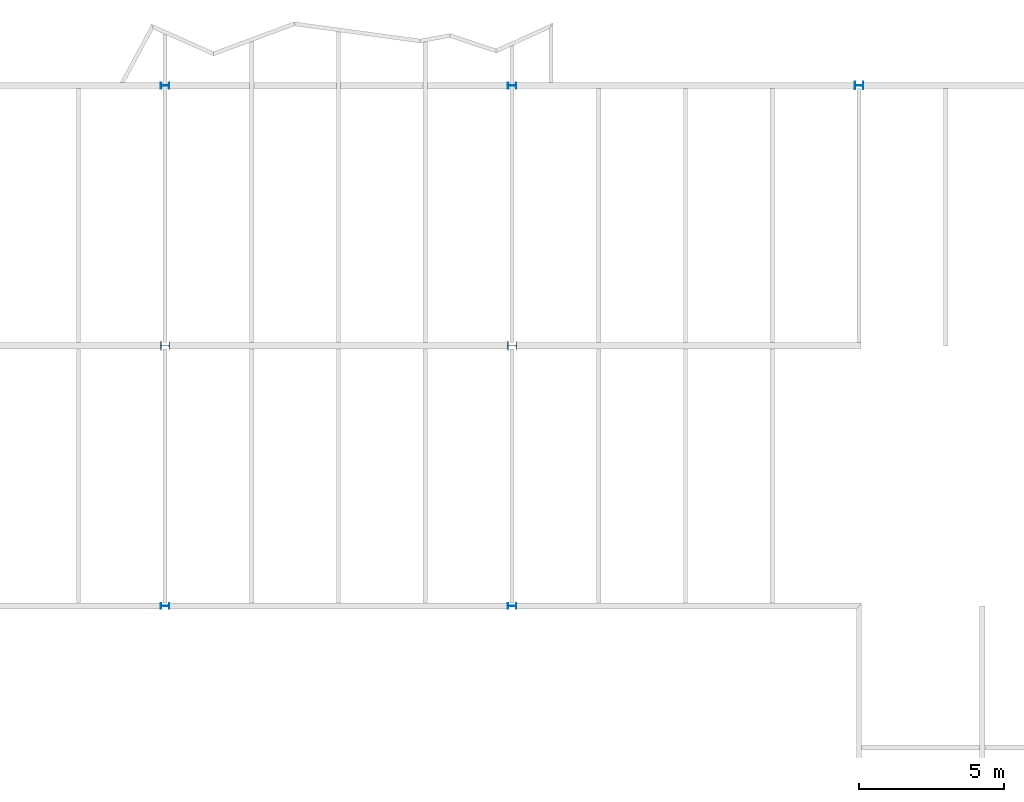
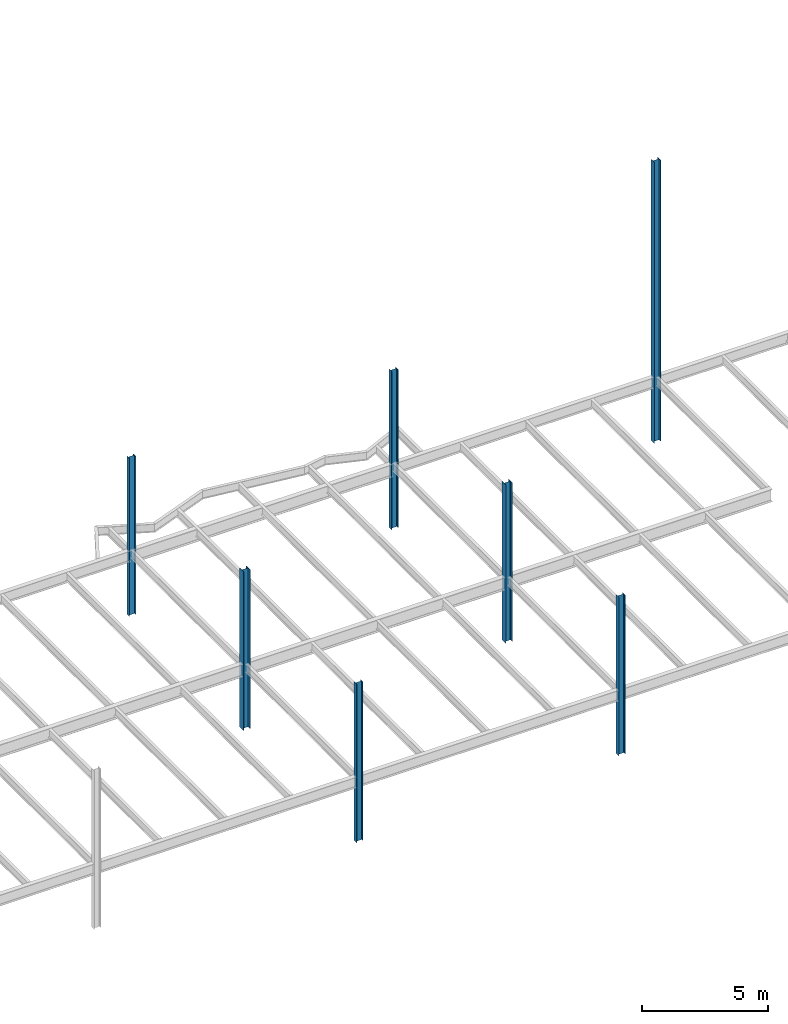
# One storey, part 2 of 23: 7 columns.
"""IFC2X3 building model written with IfcOpenShell, lengths in millimetres."""

from ifc_helpers import new_model, si_unit, origin, place, context, project, spatial, faceted_brep, material, element, save


model = new_model("IFC2X3")

# Units and contexts
context_of_model = context(None, 3, precision=1e-05, world=origin())
ifc_project = project(units=[si_unit("LENGTHUNIT", "METRE", prefix="MILLI")], contexts=[context_of_model])

# Building, storey
building = spatial("IfcBuilding", under=ifc_project, Name="Building", CompositionType="ELEMENT")
storey = spatial("IfcBuildingStorey", under=building, Name="FL5-FRM", CompositionType="ELEMENT")

# Columns
ifc_material_1 = material(Name="A992")
column_1_placement = place(None, origin())
element("IfcColumn", 1, at=column_1_placement, inside=storey, material=ifc_material_1, Name="Column283", context=context_of_model, shape_type="Brep", body=[
    faceted_brep([(-23847.0, 35898.0, 14719.2), (-23847.0, 36102.0, 14719.2), (-23847.0, 36102.0, 22373.0), (-23847.0, 35898.0, 22373.0), (-23861.6, 36102.0, 14719.2), (-23861.6, 36102.0, 22373.0), (-23861.6, 36016.9, 14719.2), (-23861.6, 36016.9, 22373.0), (-23862.0, 36013.7, 14719.2), (-23862.0, 36013.7, 22373.0), (-23863.3, 36010.6, 14719.2), (-23863.3, 36010.6, 22373.0), (-23865.3, 36008.0, 14719.2), (-23865.3, 36008.0, 22373.0), (-23868.0, 36006.0, 14719.2), (-23868.0, 36006.0, 22373.0), (-23871.0, 36004.7, 14719.2), (-23871.0, 36004.7, 22373.0), (-23874.3, 36004.3, 14719.2), (-23874.3, 36004.3, 22373.0), (-24125.7, 36004.3, 14719.2), (-24125.7, 36004.3, 22373.0), (-24129.0, 36004.7, 14719.2), (-24129.0, 36004.7, 22373.0), (-24132.0, 36006.0, 14719.2), (-24132.0, 36006.0, 22373.0), (-24134.7, 36008.0, 14719.2), (-24134.7, 36008.0, 22373.0), (-24136.7, 36010.6, 14719.2), (-24136.7, 36010.6, 22373.0), (-24138.0, 36013.7, 14719.2), (-24138.0, 36013.7, 22373.0), (-24138.4, 36016.9, 14719.2), (-24138.4, 36016.9, 22373.0), (-24138.4, 36102.0, 14719.2), (-24138.4, 36102.0, 22373.0), (-24153.0, 36102.0, 14719.2), (-24153.0, 36102.0, 22373.0), (-24153.0, 35898.0, 14719.2), (-24153.0, 35898.0, 22373.0), (-24138.4, 35898.0, 14719.2), (-24138.4, 35898.0, 22373.0), (-24138.4, 35983.1, 14719.2), (-24138.4, 35983.1, 22373.0), (-24138.0, 35986.3, 14719.2), (-24138.0, 35986.3, 22373.0), (-24136.7, 35989.4, 14719.2), (-24136.7, 35989.4, 22373.0), (-24134.7, 35992.0, 14719.2), (-24134.7, 35992.0, 22373.0), (-24132.0, 35994.0, 14719.2), (-24132.0, 35994.0, 22373.0), (-24129.0, 35995.3, 14719.2), (-24129.0, 35995.3, 22373.0), (-24125.7, 35995.8, 14719.2), (-24125.7, 35995.8, 22373.0), (-23874.3, 35995.8, 14719.2), (-23874.3, 35995.8, 22373.0), (-23871.0, 35995.3, 14719.2), (-23871.0, 35995.3, 22373.0), (-23868.0, 35994.0, 14719.2), (-23868.0, 35994.0, 22373.0), (-23865.3, 35992.0, 14719.2), (-23865.3, 35992.0, 22373.0), (-23863.3, 35989.4, 14719.2), (-23863.3, 35989.4, 22373.0), (-23862.0, 35986.3, 14719.2), (-23862.0, 35986.3, 22373.0), (-23861.6, 35983.1, 14719.2), (-23861.6, 35983.1, 22373.0), (-23861.6, 35898.0, 14719.2), (-23861.6, 35898.0, 22373.0)], [[[0, 1, 2, 3]], [[1, 4, 5, 2]], [[4, 6, 7, 5]], [[6, 8, 9, 7]], [[8, 10, 11, 9]], [[10, 12, 13, 11]], [[12, 14, 15, 13]], [[14, 16, 17, 15]], [[16, 18, 19, 17]], [[18, 20, 21, 19]], [[20, 22, 23, 21]], [[22, 24, 25, 23]], [[24, 26, 27, 25]], [[26, 28, 29, 27]], [[28, 30, 31, 29]], [[30, 32, 33, 31]], [[32, 34, 35, 33]], [[34, 36, 37, 35]], [[36, 38, 39, 37]], [[38, 40, 41, 39]], [[40, 42, 43, 41]], [[42, 44, 45, 43]], [[44, 46, 47, 45]], [[46, 48, 49, 47]], [[48, 50, 51, 49]], [[50, 52, 53, 51]], [[52, 54, 55, 53]], [[54, 56, 57, 55]], [[56, 58, 59, 57]], [[58, 60, 61, 59]], [[60, 62, 63, 61]], [[62, 64, 65, 63]], [[64, 66, 67, 65]], [[66, 68, 69, 67]], [[68, 70, 71, 69]], [[70, 0, 3, 71]], [[0, 70, 68, 66, 64, 62, 60, 58, 56, 54, 52, 50, 48, 46, 44, 42, 40, 38, 36, 34, 32, 30, 28, 26, 24, 22, 20, 18, 16, 14, 12, 10, 8, 6, 4, 1]], [[3, 2, 5, 7, 9, 11, 13, 15, 17, 19, 21, 23, 25, 27, 29, 31, 33, 35, 37, 39, 41, 43, 45, 47, 49, 51, 53, 55, 57, 59, 61, 63, 65, 67, 69, 71]]]),
])
ifc_material_2 = material(Name="A992")
column_2_placement = place(None, origin())
element("IfcColumn", 2, at=column_2_placement, inside=storey, material=ifc_material_2, Name="Column285", context=context_of_model, shape_type="Brep", body=[
    faceted_brep([(-23846.0, 26847.5, 14694.2), (-23846.0, 27152.5, 14694.2), (-23846.0, 27152.5, 22373.0), (-23846.0, 26847.5, 22373.0), (-23861.4, 27152.5, 14694.2), (-23861.4, 27152.5, 22373.0), (-23861.4, 27020.1, 14694.2), (-23861.4, 27020.1, 22373.0), (-23861.9, 27016.2, 14694.2), (-23861.9, 27016.2, 22373.0), (-23863.4, 27012.5, 14694.2), (-23863.4, 27012.5, 22373.0), (-23865.9, 27009.4, 14694.2), (-23865.9, 27009.4, 22373.0), (-23869.0, 27007.0, 14694.2), (-23869.0, 27007.0, 22373.0), (-23872.7, 27005.5, 14694.2), (-23872.7, 27005.5, 22373.0), (-23876.6, 27004.9, 14694.2), (-23876.6, 27004.9, 22373.0), (-24123.4, 27004.9, 14694.2), (-24123.4, 27004.9, 22373.0), (-24127.3, 27005.5, 14694.2), (-24127.3, 27005.5, 22373.0), (-24131.0, 27007.0, 14694.2), (-24131.0, 27007.0, 22373.0), (-24134.1, 27009.4, 14694.2), (-24134.1, 27009.4, 22373.0), (-24136.6, 27012.5, 14694.2), (-24136.6, 27012.5, 22373.0), (-24138.1, 27016.2, 14694.2), (-24138.1, 27016.2, 22373.0), (-24138.6, 27020.1, 14694.2), (-24138.6, 27020.1, 22373.0), (-24138.6, 27152.5, 14694.2), (-24138.6, 27152.5, 22373.0), (-24154.0, 27152.5, 14694.2), (-24154.0, 27152.5, 22373.0), (-24154.0, 26847.5, 14694.2), (-24154.0, 26847.5, 22373.0), (-24138.6, 26847.5, 14694.2), (-24138.6, 26847.5, 22373.0), (-24138.6, 26979.9, 14694.2), (-24138.6, 26979.9, 22373.0), (-24138.1, 26983.8, 14694.2), (-24138.1, 26983.8, 22373.0), (-24136.6, 26987.5, 14694.2), (-24136.6, 26987.5, 22373.0), (-24134.1, 26990.6, 14694.2), (-24134.1, 26990.6, 22373.0), (-24131.0, 26993.0, 14694.2), (-24131.0, 26993.0, 22373.0), (-24127.3, 26994.5, 14694.2), (-24127.3, 26994.5, 22373.0), (-24123.4, 26995.1, 14694.2), (-24123.4, 26995.1, 22373.0), (-23876.6, 26995.1, 14694.2), (-23876.6, 26995.1, 22373.0), (-23872.7, 26994.5, 14694.2), (-23872.7, 26994.5, 22373.0), (-23869.0, 26993.0, 14694.2), (-23869.0, 26993.0, 22373.0), (-23865.9, 26990.6, 14694.2), (-23865.9, 26990.6, 22373.0), (-23863.4, 26987.5, 14694.2), (-23863.4, 26987.5, 22373.0), (-23861.9, 26983.8, 14694.2), (-23861.9, 26983.8, 22373.0), (-23861.4, 26979.9, 14694.2), (-23861.4, 26979.9, 22373.0), (-23861.4, 26847.5, 14694.2), (-23861.4, 26847.5, 22373.0)], [[[0, 1, 2, 3]], [[1, 4, 5, 2]], [[4, 6, 7, 5]], [[6, 8, 9, 7]], [[8, 10, 11, 9]], [[10, 12, 13, 11]], [[12, 14, 15, 13]], [[14, 16, 17, 15]], [[16, 18, 19, 17]], [[18, 20, 21, 19]], [[20, 22, 23, 21]], [[22, 24, 25, 23]], [[24, 26, 27, 25]], [[26, 28, 29, 27]], [[28, 30, 31, 29]], [[30, 32, 33, 31]], [[32, 34, 35, 33]], [[34, 36, 37, 35]], [[36, 38, 39, 37]], [[38, 40, 41, 39]], [[40, 42, 43, 41]], [[42, 44, 45, 43]], [[44, 46, 47, 45]], [[46, 48, 49, 47]], [[48, 50, 51, 49]], [[50, 52, 53, 51]], [[52, 54, 55, 53]], [[54, 56, 57, 55]], [[56, 58, 59, 57]], [[58, 60, 61, 59]], [[60, 62, 63, 61]], [[62, 64, 65, 63]], [[64, 66, 67, 65]], [[66, 68, 69, 67]], [[68, 70, 71, 69]], [[70, 0, 3, 71]], [[0, 70, 68, 66, 64, 62, 60, 58, 56, 54, 52, 50, 48, 46, 44, 42, 40, 38, 36, 34, 32, 30, 28, 26, 24, 22, 20, 18, 16, 14, 12, 10, 8, 6, 4, 1]], [[3, 2, 5, 7, 9, 11, 13, 15, 17, 19, 21, 23, 25, 27, 29, 31, 33, 35, 37, 39, 41, 43, 45, 47, 49, 51, 53, 55, 57, 59, 61, 63, 65, 67, 69, 71]]]),
])
ifc_material_3 = material(Name="A992")
column_3_placement = place(None, origin())
element("IfcColumn", 3, at=column_3_placement, inside=storey, material=ifc_material_3, Name="Column287", context=context_of_model, shape_type="Brep", body=[
    faceted_brep([(-23847.0, 17898.0, 14694.2), (-23847.0, 18102.0, 14694.2), (-23847.0, 18102.0, 22373.0), (-23847.0, 17898.0, 22373.0), (-23861.6, 18102.0, 14694.2), (-23861.6, 18102.0, 22373.0), (-23861.6, 18016.9, 14694.2), (-23861.6, 18016.9, 22373.0), (-23862.0, 18013.7, 14694.2), (-23862.0, 18013.7, 22373.0), (-23863.3, 18010.6, 14694.2), (-23863.3, 18010.6, 22373.0), (-23865.3, 18008.0, 14694.2), (-23865.3, 18008.0, 22373.0), (-23868.0, 18006.0, 14694.2), (-23868.0, 18006.0, 22373.0), (-23871.0, 18004.7, 14694.2), (-23871.0, 18004.7, 22373.0), (-23874.3, 18004.3, 14694.2), (-23874.3, 18004.3, 22373.0), (-24125.7, 18004.3, 14694.2), (-24125.7, 18004.3, 22373.0), (-24129.0, 18004.7, 14694.2), (-24129.0, 18004.7, 22373.0), (-24132.0, 18006.0, 14694.2), (-24132.0, 18006.0, 22373.0), (-24134.7, 18008.0, 14694.2), (-24134.7, 18008.0, 22373.0), (-24136.7, 18010.6, 14694.2), (-24136.7, 18010.6, 22373.0), (-24138.0, 18013.7, 14694.2), (-24138.0, 18013.7, 22373.0), (-24138.4, 18016.9, 14694.2), (-24138.4, 18016.9, 22373.0), (-24138.4, 18102.0, 14694.2), (-24138.4, 18102.0, 22373.0), (-24153.0, 18102.0, 14694.2), (-24153.0, 18102.0, 22373.0), (-24153.0, 17898.0, 14694.2), (-24153.0, 17898.0, 22373.0), (-24138.4, 17898.0, 14694.2), (-24138.4, 17898.0, 22373.0), (-24138.4, 17983.1, 14694.2), (-24138.4, 17983.1, 22373.0), (-24138.0, 17986.3, 14694.2), (-24138.0, 17986.3, 22373.0), (-24136.7, 17989.4, 14694.2), (-24136.7, 17989.4, 22373.0), (-24134.7, 17992.0, 14694.2), (-24134.7, 17992.0, 22373.0), (-24132.0, 17994.0, 14694.2), (-24132.0, 17994.0, 22373.0), (-24129.0, 17995.3, 14694.2), (-24129.0, 17995.3, 22373.0), (-24125.7, 17995.8, 14694.2), (-24125.7, 17995.8, 22373.0), (-23874.3, 17995.8, 14694.2), (-23874.3, 17995.8, 22373.0), (-23871.0, 17995.3, 14694.2), (-23871.0, 17995.3, 22373.0), (-23868.0, 17994.0, 14694.2), (-23868.0, 17994.0, 22373.0), (-23865.3, 17992.0, 14694.2), (-23865.3, 17992.0, 22373.0), (-23863.3, 17989.4, 14694.2), (-23863.3, 17989.4, 22373.0), (-23862.0, 17986.3, 14694.2), (-23862.0, 17986.3, 22373.0), (-23861.6, 17983.1, 14694.2), (-23861.6, 17983.1, 22373.0), (-23861.6, 17898.0, 14694.2), (-23861.6, 17898.0, 22373.0)], [[[0, 1, 2, 3]], [[1, 4, 5, 2]], [[4, 6, 7, 5]], [[6, 8, 9, 7]], [[8, 10, 11, 9]], [[10, 12, 13, 11]], [[12, 14, 15, 13]], [[14, 16, 17, 15]], [[16, 18, 19, 17]], [[18, 20, 21, 19]], [[20, 22, 23, 21]], [[22, 24, 25, 23]], [[24, 26, 27, 25]], [[26, 28, 29, 27]], [[28, 30, 31, 29]], [[30, 32, 33, 31]], [[32, 34, 35, 33]], [[34, 36, 37, 35]], [[36, 38, 39, 37]], [[38, 40, 41, 39]], [[40, 42, 43, 41]], [[42, 44, 45, 43]], [[44, 46, 47, 45]], [[46, 48, 49, 47]], [[48, 50, 51, 49]], [[50, 52, 53, 51]], [[52, 54, 55, 53]], [[54, 56, 57, 55]], [[56, 58, 59, 57]], [[58, 60, 61, 59]], [[60, 62, 63, 61]], [[62, 64, 65, 63]], [[64, 66, 67, 65]], [[66, 68, 69, 67]], [[68, 70, 71, 69]], [[70, 0, 3, 71]], [[0, 70, 68, 66, 64, 62, 60, 58, 56, 54, 52, 50, 48, 46, 44, 42, 40, 38, 36, 34, 32, 30, 28, 26, 24, 22, 20, 18, 16, 14, 12, 10, 8, 6, 4, 1]], [[3, 2, 5, 7, 9, 11, 13, 15, 17, 19, 21, 23, 25, 27, 29, 31, 33, 35, 37, 39, 41, 43, 45, 47, 49, 51, 53, 55, 57, 59, 61, 63, 65, 67, 69, 71]]]),
])
ifc_material_4 = material(Name="A992")
column_4_placement = place(None, origin())
element("IfcColumn", 4, at=column_4_placement, inside=storey, material=ifc_material_4, Name="Column289", context=context_of_model, shape_type="Brep", body=[
    faceted_brep([(-11847.0, 35898.0, 14719.2), (-11847.0, 36102.0, 14719.2), (-11847.0, 36102.0, 22373.0), (-11847.0, 35898.0, 22373.0), (-11861.6, 36102.0, 14719.2), (-11861.6, 36102.0, 22373.0), (-11861.6, 36016.9, 14719.2), (-11861.6, 36016.9, 22373.0), (-11862.0, 36013.7, 14719.2), (-11862.0, 36013.7, 22373.0), (-11863.3, 36010.6, 14719.2), (-11863.3, 36010.6, 22373.0), (-11865.3, 36008.0, 14719.2), (-11865.3, 36008.0, 22373.0), (-11868.0, 36006.0, 14719.2), (-11868.0, 36006.0, 22373.0), (-11871.0, 36004.7, 14719.2), (-11871.0, 36004.7, 22373.0), (-11874.3, 36004.3, 14719.2), (-11874.3, 36004.3, 22373.0), (-12125.7, 36004.3, 14719.2), (-12125.7, 36004.3, 22373.0), (-12129.0, 36004.7, 14719.2), (-12129.0, 36004.7, 22373.0), (-12132.0, 36006.0, 14719.2), (-12132.0, 36006.0, 22373.0), (-12134.7, 36008.0, 14719.2), (-12134.7, 36008.0, 22373.0), (-12136.7, 36010.6, 14719.2), (-12136.7, 36010.6, 22373.0), (-12138.0, 36013.7, 14719.2), (-12138.0, 36013.7, 22373.0), (-12138.4, 36016.9, 14719.2), (-12138.4, 36016.9, 22373.0), (-12138.4, 36102.0, 14719.2), (-12138.4, 36102.0, 22373.0), (-12153.0, 36102.0, 14719.2), (-12153.0, 36102.0, 22373.0), (-12153.0, 35898.0, 14719.2), (-12153.0, 35898.0, 22373.0), (-12138.4, 35898.0, 14719.2), (-12138.4, 35898.0, 22373.0), (-12138.4, 35983.1, 14719.2), (-12138.4, 35983.1, 22373.0), (-12138.0, 35986.3, 14719.2), (-12138.0, 35986.3, 22373.0), (-12136.7, 35989.4, 14719.2), (-12136.7, 35989.4, 22373.0), (-12134.7, 35992.0, 14719.2), (-12134.7, 35992.0, 22373.0), (-12132.0, 35994.0, 14719.2), (-12132.0, 35994.0, 22373.0), (-12129.0, 35995.3, 14719.2), (-12129.0, 35995.3, 22373.0), (-12125.7, 35995.8, 14719.2), (-12125.7, 35995.8, 22373.0), (-11874.3, 35995.8, 14719.2), (-11874.3, 35995.8, 22373.0), (-11871.0, 35995.3, 14719.2), (-11871.0, 35995.3, 22373.0), (-11868.0, 35994.0, 14719.2), (-11868.0, 35994.0, 22373.0), (-11865.3, 35992.0, 14719.2), (-11865.3, 35992.0, 22373.0), (-11863.3, 35989.4, 14719.2), (-11863.3, 35989.4, 22373.0), (-11862.0, 35986.3, 14719.2), (-11862.0, 35986.3, 22373.0), (-11861.6, 35983.1, 14719.2), (-11861.6, 35983.1, 22373.0), (-11861.6, 35898.0, 14719.2), (-11861.6, 35898.0, 22373.0)], [[[0, 1, 2, 3]], [[1, 4, 5, 2]], [[4, 6, 7, 5]], [[6, 8, 9, 7]], [[8, 10, 11, 9]], [[10, 12, 13, 11]], [[12, 14, 15, 13]], [[14, 16, 17, 15]], [[16, 18, 19, 17]], [[18, 20, 21, 19]], [[20, 22, 23, 21]], [[22, 24, 25, 23]], [[24, 26, 27, 25]], [[26, 28, 29, 27]], [[28, 30, 31, 29]], [[30, 32, 33, 31]], [[32, 34, 35, 33]], [[34, 36, 37, 35]], [[36, 38, 39, 37]], [[38, 40, 41, 39]], [[40, 42, 43, 41]], [[42, 44, 45, 43]], [[44, 46, 47, 45]], [[46, 48, 49, 47]], [[48, 50, 51, 49]], [[50, 52, 53, 51]], [[52, 54, 55, 53]], [[54, 56, 57, 55]], [[56, 58, 59, 57]], [[58, 60, 61, 59]], [[60, 62, 63, 61]], [[62, 64, 65, 63]], [[64, 66, 67, 65]], [[66, 68, 69, 67]], [[68, 70, 71, 69]], [[70, 0, 3, 71]], [[0, 70, 68, 66, 64, 62, 60, 58, 56, 54, 52, 50, 48, 46, 44, 42, 40, 38, 36, 34, 32, 30, 28, 26, 24, 22, 20, 18, 16, 14, 12, 10, 8, 6, 4, 1]], [[3, 2, 5, 7, 9, 11, 13, 15, 17, 19, 21, 23, 25, 27, 29, 31, 33, 35, 37, 39, 41, 43, 45, 47, 49, 51, 53, 55, 57, 59, 61, 63, 65, 67, 69, 71]]]),
])
ifc_material_5 = material(Name="A992")
column_5_placement = place(None, origin())
element("IfcColumn", 5, at=column_5_placement, inside=storey, material=ifc_material_5, Name="Column291", context=context_of_model, shape_type="Brep", body=[
    faceted_brep([(-11846.0, 26847.5, 14694.2), (-11846.0, 27152.5, 14694.2), (-11846.0, 27152.5, 22373.0), (-11846.0, 26847.5, 22373.0), (-11861.4, 27152.5, 14694.2), (-11861.4, 27152.5, 22373.0), (-11861.4, 27020.1, 14694.2), (-11861.4, 27020.1, 22373.0), (-11861.9, 27016.2, 14694.2), (-11861.9, 27016.2, 22373.0), (-11863.4, 27012.5, 14694.2), (-11863.4, 27012.5, 22373.0), (-11865.9, 27009.4, 14694.2), (-11865.9, 27009.4, 22373.0), (-11869.0, 27007.0, 14694.2), (-11869.0, 27007.0, 22373.0), (-11872.7, 27005.5, 14694.2), (-11872.7, 27005.5, 22373.0), (-11876.6, 27004.9, 14694.2), (-11876.6, 27004.9, 22373.0), (-12123.4, 27004.9, 14694.2), (-12123.4, 27004.9, 22373.0), (-12127.3, 27005.5, 14694.2), (-12127.3, 27005.5, 22373.0), (-12131.0, 27007.0, 14694.2), (-12131.0, 27007.0, 22373.0), (-12134.1, 27009.4, 14694.2), (-12134.1, 27009.4, 22373.0), (-12136.6, 27012.5, 14694.2), (-12136.6, 27012.5, 22373.0), (-12138.1, 27016.2, 14694.2), (-12138.1, 27016.2, 22373.0), (-12138.6, 27020.1, 14694.2), (-12138.6, 27020.1, 22373.0), (-12138.6, 27152.5, 14694.2), (-12138.6, 27152.5, 22373.0), (-12154.0, 27152.5, 14694.2), (-12154.0, 27152.5, 22373.0), (-12154.0, 26847.5, 14694.2), (-12154.0, 26847.5, 22373.0), (-12138.6, 26847.5, 14694.2), (-12138.6, 26847.5, 22373.0), (-12138.6, 26979.9, 14694.2), (-12138.6, 26979.9, 22373.0), (-12138.1, 26983.8, 14694.2), (-12138.1, 26983.8, 22373.0), (-12136.6, 26987.5, 14694.2), (-12136.6, 26987.5, 22373.0), (-12134.1, 26990.6, 14694.2), (-12134.1, 26990.6, 22373.0), (-12131.0, 26993.0, 14694.2), (-12131.0, 26993.0, 22373.0), (-12127.3, 26994.5, 14694.2), (-12127.3, 26994.5, 22373.0), (-12123.4, 26995.1, 14694.2), (-12123.4, 26995.1, 22373.0), (-11876.6, 26995.1, 14694.2), (-11876.6, 26995.1, 22373.0), (-11872.7, 26994.5, 14694.2), (-11872.7, 26994.5, 22373.0), (-11869.0, 26993.0, 14694.2), (-11869.0, 26993.0, 22373.0), (-11865.9, 26990.6, 14694.2), (-11865.9, 26990.6, 22373.0), (-11863.4, 26987.5, 14694.2), (-11863.4, 26987.5, 22373.0), (-11861.9, 26983.8, 14694.2), (-11861.9, 26983.8, 22373.0), (-11861.4, 26979.9, 14694.2), (-11861.4, 26979.9, 22373.0), (-11861.4, 26847.5, 14694.2), (-11861.4, 26847.5, 22373.0)], [[[0, 1, 2, 3]], [[1, 4, 5, 2]], [[4, 6, 7, 5]], [[6, 8, 9, 7]], [[8, 10, 11, 9]], [[10, 12, 13, 11]], [[12, 14, 15, 13]], [[14, 16, 17, 15]], [[16, 18, 19, 17]], [[18, 20, 21, 19]], [[20, 22, 23, 21]], [[22, 24, 25, 23]], [[24, 26, 27, 25]], [[26, 28, 29, 27]], [[28, 30, 31, 29]], [[30, 32, 33, 31]], [[32, 34, 35, 33]], [[34, 36, 37, 35]], [[36, 38, 39, 37]], [[38, 40, 41, 39]], [[40, 42, 43, 41]], [[42, 44, 45, 43]], [[44, 46, 47, 45]], [[46, 48, 49, 47]], [[48, 50, 51, 49]], [[50, 52, 53, 51]], [[52, 54, 55, 53]], [[54, 56, 57, 55]], [[56, 58, 59, 57]], [[58, 60, 61, 59]], [[60, 62, 63, 61]], [[62, 64, 65, 63]], [[64, 66, 67, 65]], [[66, 68, 69, 67]], [[68, 70, 71, 69]], [[70, 0, 3, 71]], [[0, 70, 68, 66, 64, 62, 60, 58, 56, 54, 52, 50, 48, 46, 44, 42, 40, 38, 36, 34, 32, 30, 28, 26, 24, 22, 20, 18, 16, 14, 12, 10, 8, 6, 4, 1]], [[3, 2, 5, 7, 9, 11, 13, 15, 17, 19, 21, 23, 25, 27, 29, 31, 33, 35, 37, 39, 41, 43, 45, 47, 49, 51, 53, 55, 57, 59, 61, 63, 65, 67, 69, 71]]]),
])
ifc_material_6 = material(Name="A992")
column_6_placement = place(None, origin())
element("IfcColumn", 6, at=column_6_placement, inside=storey, material=ifc_material_6, Name="Column293", context=context_of_model, shape_type="Brep", body=[
    faceted_brep([(-11847.0, 17898.0, 14694.2), (-11847.0, 18102.0, 14694.2), (-11847.0, 18102.0, 22373.0), (-11847.0, 17898.0, 22373.0), (-11861.6, 18102.0, 14694.2), (-11861.6, 18102.0, 22373.0), (-11861.6, 18016.9, 14694.2), (-11861.6, 18016.9, 22373.0), (-11862.0, 18013.7, 14694.2), (-11862.0, 18013.7, 22373.0), (-11863.3, 18010.6, 14694.2), (-11863.3, 18010.6, 22373.0), (-11865.3, 18008.0, 14694.2), (-11865.3, 18008.0, 22373.0), (-11868.0, 18006.0, 14694.2), (-11868.0, 18006.0, 22373.0), (-11871.0, 18004.7, 14694.2), (-11871.0, 18004.7, 22373.0), (-11874.3, 18004.3, 14694.2), (-11874.3, 18004.3, 22373.0), (-12125.7, 18004.3, 14694.2), (-12125.7, 18004.3, 22373.0), (-12129.0, 18004.7, 14694.2), (-12129.0, 18004.7, 22373.0), (-12132.0, 18006.0, 14694.2), (-12132.0, 18006.0, 22373.0), (-12134.7, 18008.0, 14694.2), (-12134.7, 18008.0, 22373.0), (-12136.7, 18010.6, 14694.2), (-12136.7, 18010.6, 22373.0), (-12138.0, 18013.7, 14694.2), (-12138.0, 18013.7, 22373.0), (-12138.4, 18016.9, 14694.2), (-12138.4, 18016.9, 22373.0), (-12138.4, 18102.0, 14694.2), (-12138.4, 18102.0, 22373.0), (-12153.0, 18102.0, 14694.2), (-12153.0, 18102.0, 22373.0), (-12153.0, 17898.0, 14694.2), (-12153.0, 17898.0, 22373.0), (-12138.4, 17898.0, 14694.2), (-12138.4, 17898.0, 22373.0), (-12138.4, 17983.1, 14694.2), (-12138.4, 17983.1, 22373.0), (-12138.0, 17986.3, 14694.2), (-12138.0, 17986.3, 22373.0), (-12136.7, 17989.4, 14694.2), (-12136.7, 17989.4, 22373.0), (-12134.7, 17992.0, 14694.2), (-12134.7, 17992.0, 22373.0), (-12132.0, 17994.0, 14694.2), (-12132.0, 17994.0, 22373.0), (-12129.0, 17995.3, 14694.2), (-12129.0, 17995.3, 22373.0), (-12125.7, 17995.8, 14694.2), (-12125.7, 17995.8, 22373.0), (-11874.3, 17995.8, 14694.2), (-11874.3, 17995.8, 22373.0), (-11871.0, 17995.3, 14694.2), (-11871.0, 17995.3, 22373.0), (-11868.0, 17994.0, 14694.2), (-11868.0, 17994.0, 22373.0), (-11865.3, 17992.0, 14694.2), (-11865.3, 17992.0, 22373.0), (-11863.3, 17989.4, 14694.2), (-11863.3, 17989.4, 22373.0), (-11862.0, 17986.3, 14694.2), (-11862.0, 17986.3, 22373.0), (-11861.6, 17983.1, 14694.2), (-11861.6, 17983.1, 22373.0), (-11861.6, 17898.0, 14694.2), (-11861.6, 17898.0, 22373.0)], [[[0, 1, 2, 3]], [[1, 4, 5, 2]], [[4, 6, 7, 5]], [[6, 8, 9, 7]], [[8, 10, 11, 9]], [[10, 12, 13, 11]], [[12, 14, 15, 13]], [[14, 16, 17, 15]], [[16, 18, 19, 17]], [[18, 20, 21, 19]], [[20, 22, 23, 21]], [[22, 24, 25, 23]], [[24, 26, 27, 25]], [[26, 28, 29, 27]], [[28, 30, 31, 29]], [[30, 32, 33, 31]], [[32, 34, 35, 33]], [[34, 36, 37, 35]], [[36, 38, 39, 37]], [[38, 40, 41, 39]], [[40, 42, 43, 41]], [[42, 44, 45, 43]], [[44, 46, 47, 45]], [[46, 48, 49, 47]], [[48, 50, 51, 49]], [[50, 52, 53, 51]], [[52, 54, 55, 53]], [[54, 56, 57, 55]], [[56, 58, 59, 57]], [[58, 60, 61, 59]], [[60, 62, 63, 61]], [[62, 64, 65, 63]], [[64, 66, 67, 65]], [[66, 68, 69, 67]], [[68, 70, 71, 69]], [[70, 0, 3, 71]], [[0, 70, 68, 66, 64, 62, 60, 58, 56, 54, 52, 50, 48, 46, 44, 42, 40, 38, 36, 34, 32, 30, 28, 26, 24, 22, 20, 18, 16, 14, 12, 10, 8, 6, 4, 1]], [[3, 2, 5, 7, 9, 11, 13, 15, 17, 19, 21, 23, 25, 27, 29, 31, 33, 35, 37, 39, 41, 43, 45, 47, 49, 51, 53, 55, 57, 59, 61, 63, 65, 67, 69, 71]]]),
])
ifc_material_7 = material(Name="A992")
column_7_placement = place(None, origin())
element("IfcColumn", 7, at=column_7_placement, inside=storey, material=ifc_material_7, Name="Column334", context=context_of_model, shape_type="Brep", body=[
    faceted_brep([(153.0, 35873.0, 14719.2), (153.0, 36127.0, 14719.2), (153.0, 36127.0, 28300.0), (153.0, 35873.0, 28300.0), (138.4, 36127.0, 14719.2), (138.4, 36127.0, 28300.0), (138.4, 36019.6, 14719.2), (138.4, 36019.6, 28300.0), (137.882, 36015.7, 14719.2), (137.882, 36015.7, 28300.0), (136.364, 36012.0, 14719.2), (136.364, 36012.0, 28300.0), (133.948, 36008.9, 14719.2), (133.948, 36008.9, 28300.0), (130.8, 36006.4, 14719.2), (130.8, 36006.4, 28300.0), (127.134, 36004.9, 14719.2), (127.134, 36004.9, 28300.0), (123.2, 36004.4, 14719.2), (123.2, 36004.4, 28300.0), (-123.2, 36004.4, 14719.2), (-123.2, 36004.4, 28300.0), (-127.134, 36004.9, 14719.2), (-127.134, 36004.9, 28300.0), (-130.8, 36006.4, 14719.2), (-130.8, 36006.4, 28300.0), (-133.948, 36008.9, 14719.2), (-133.948, 36008.9, 28300.0), (-136.364, 36012.0, 14719.2), (-136.364, 36012.0, 28300.0), (-137.882, 36015.7, 14719.2), (-137.882, 36015.7, 28300.0), (-138.4, 36019.6, 14719.2), (-138.4, 36019.6, 28300.0), (-138.4, 36127.0, 14719.2), (-138.4, 36127.0, 28300.0), (-153.0, 36127.0, 14719.2), (-153.0, 36127.0, 28300.0), (-153.0, 35873.0, 14719.2), (-153.0, 35873.0, 28300.0), (-138.4, 35873.0, 14719.2), (-138.4, 35873.0, 28300.0), (-138.4, 35980.4, 14719.2), (-138.4, 35980.4, 28300.0), (-137.882, 35984.3, 14719.2), (-137.882, 35984.3, 28300.0), (-136.364, 35988.0, 14719.2), (-136.364, 35988.0, 28300.0), (-133.948, 35991.1, 14719.2), (-133.948, 35991.1, 28300.0), (-130.8, 35993.6, 14719.2), (-130.8, 35993.6, 28300.0), (-127.134, 35995.1, 14719.2), (-127.134, 35995.1, 28300.0), (-123.2, 35995.6, 14719.2), (-123.2, 35995.6, 28300.0), (123.2, 35995.6, 14719.2), (123.2, 35995.6, 28300.0), (127.134, 35995.1, 14719.2), (127.134, 35995.1, 28300.0), (130.8, 35993.6, 14719.2), (130.8, 35993.6, 28300.0), (133.948, 35991.1, 14719.2), (133.948, 35991.1, 28300.0), (136.364, 35988.0, 14719.2), (136.364, 35988.0, 28300.0), (137.882, 35984.3, 14719.2), (137.882, 35984.3, 28300.0), (138.4, 35980.4, 14719.2), (138.4, 35980.4, 28300.0), (138.4, 35873.0, 14719.2), (138.4, 35873.0, 28300.0)], [[[0, 1, 2, 3]], [[1, 4, 5, 2]], [[4, 6, 7, 5]], [[6, 8, 9, 7]], [[8, 10, 11, 9]], [[10, 12, 13, 11]], [[12, 14, 15, 13]], [[14, 16, 17, 15]], [[16, 18, 19, 17]], [[18, 20, 21, 19]], [[20, 22, 23, 21]], [[22, 24, 25, 23]], [[24, 26, 27, 25]], [[26, 28, 29, 27]], [[28, 30, 31, 29]], [[30, 32, 33, 31]], [[32, 34, 35, 33]], [[34, 36, 37, 35]], [[36, 38, 39, 37]], [[38, 40, 41, 39]], [[40, 42, 43, 41]], [[42, 44, 45, 43]], [[44, 46, 47, 45]], [[46, 48, 49, 47]], [[48, 50, 51, 49]], [[50, 52, 53, 51]], [[52, 54, 55, 53]], [[54, 56, 57, 55]], [[56, 58, 59, 57]], [[58, 60, 61, 59]], [[60, 62, 63, 61]], [[62, 64, 65, 63]], [[64, 66, 67, 65]], [[66, 68, 69, 67]], [[68, 70, 71, 69]], [[70, 0, 3, 71]], [[0, 70, 68, 66, 64, 62, 60, 58, 56, 54, 52, 50, 48, 46, 44, 42, 40, 38, 36, 34, 32, 30, 28, 26, 24, 22, 20, 18, 16, 14, 12, 10, 8, 6, 4, 1]], [[3, 2, 5, 7, 9, 11, 13, 15, 17, 19, 21, 23, 25, 27, 29, 31, 33, 35, 37, 39, 41, 43, 45, 47, 49, 51, 53, 55, 57, 59, 61, 63, 65, 67, 69, 71]]]),
])

save(model, "model.ifc")
